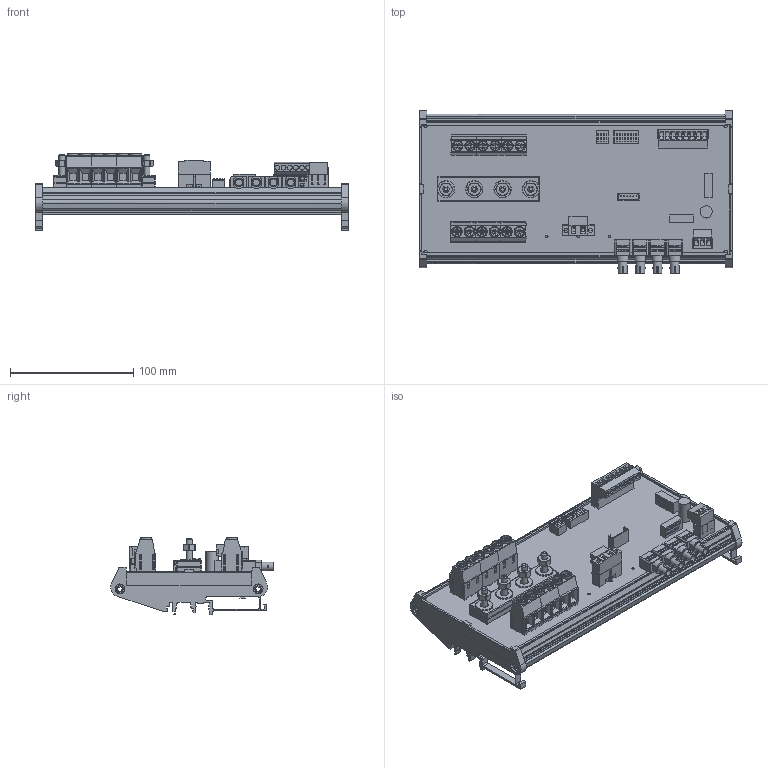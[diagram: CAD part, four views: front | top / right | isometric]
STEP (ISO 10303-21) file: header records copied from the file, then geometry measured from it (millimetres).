
FILE_DESCRIPTION(('FreeCAD Model'),'2;1');
FILE_NAME('C:/3D Files/Stringhe/ST0N/ST0N1225 DR/ST0N1225 DR.step', '2021-01-27T18:01:29',('Author'),(''), 'Open CASCADE STEP processor 7.2','FreeCAD','Unknown');
FILE_SCHEMA(('AUTOMOTIVE_DESIGN { 1 0 10303 214 1 1 1 1 }'));
Length unit declared in the file: millimetre
Products named in the file (40): ST0N1225_DR; Mstb_3P_F; Mstb_3Pc_M; AmpModu_6P_M; DipSwitch8; DipSwitch4; Stampato; Dado6MA003; Dado6MA004; Dado6MA005; Dado6MA006; Rondella6; Rondella007; Rondella008; Rondella009; CH_01-02; CH_03-04; CH_05-06; CH_07-08; CH_09-10; CH_11-12; CN3_M; Profilo_254x128; CN3_F; IB2405LS-1W; ELNA_470_uF_35_V; VTBSE-6x35; VTBSE-6x031; VTBSE-6x032; VTBSE-6x033; Barra_8.2a_cm; Barra_8.2a_cm001; Barra_8.2a_cm002; Mstb_8P_F; Mstb_8Pc_M; IB2405LS-1W001; HFBR-x41xTZ001; HFBR-x41xTZ002; HFBR-x41xTZ003; HFBR-x41xTZ004
Assembly tree (39 placements, depth 2):
  ST0N1225_DR
    Mstb_3P_F
    Mstb_3Pc_M
    AmpModu_6P_M
    DipSwitch8
    DipSwitch4
    Stampato
    Dado6MA003
    Dado6MA004
    Dado6MA005
    Dado6MA006
    Rondella6
    Rondella007
    Rondella008
    Rondella009
    CH_01-02
    CH_03-04
    CH_05-06
    CH_07-08
    CH_09-10
    CH_11-12
    CN3_M
    Profilo_254x128
    CN3_F
    IB2405LS-1W
    ELNA_470_uF_35_V
    VTBSE-6x35
    VTBSE-6x031
    VTBSE-6x032
    VTBSE-6x033
    Barra_8.2a_cm
    Barra_8.2a_cm001
    Barra_8.2a_cm002
    Mstb_8P_F
    Mstb_8Pc_M
    IB2405LS-1W001
    HFBR-x41xTZ001
    HFBR-x41xTZ002
    HFBR-x41xTZ003
    HFBR-x41xTZ004
Bounding box: 254 x 132.37 x 63.19 mm (x, y, z)
Volume: 247279.5 mm3; surface area: 259575.5 mm2
Topology: 111 solids, 227 shells, 3966 faces, 14827 edges, 20741 vertices
Faces by surface type: plane 2858, cylinder 720, bspline 217, cone 83, torus 54, sphere 32, extrusion 2
Full cylindrical faces by diameter (mm): 0.5 x40, 0.75 x36, 1 x10, 1.5 x11, 1.6 x2, 1.8 x2, 2.05 x2, 2.5 x2, 3.3 x2, 3.5 x2, 3.8 x2, 4 x15, 4.3 x2, 4.917 x4, 5 x8, 5.6 x4, 6.6 x4, 7 x12, 7.1 x4, 7.2 x12, 7.5 x12, 7.9 x4, 8.66 x12, 9.202 x2, 10 x5, 14 x4
Entity records: 342127 total; most frequent: CARTESIAN_POINT 83689, DIRECTION 41011, VECTOR 27104, LINE 27102, ORIENTED_EDGE 21416, PCURVE 21416, DEFINITIONAL_REPRESENTATION 21416, EDGE_CURVE 11545
